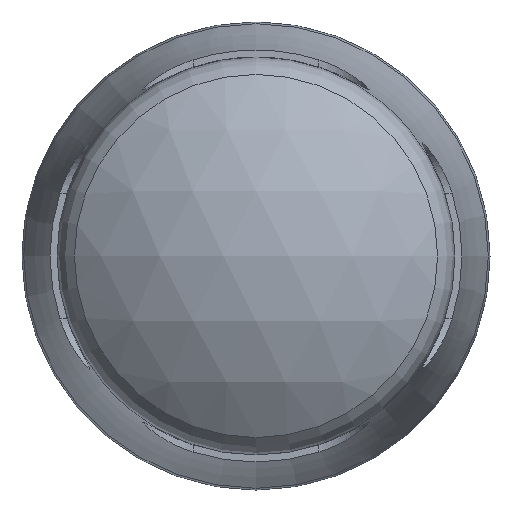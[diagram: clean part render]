
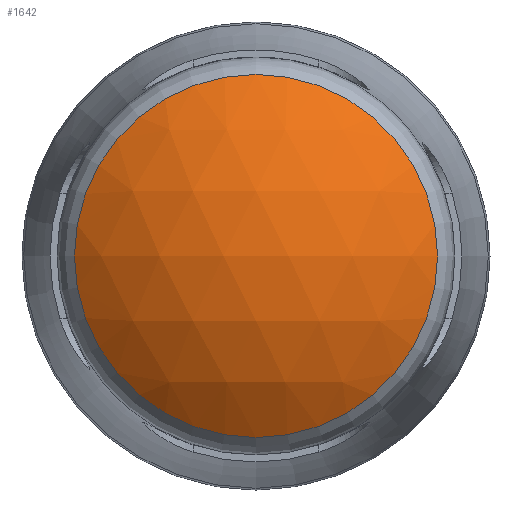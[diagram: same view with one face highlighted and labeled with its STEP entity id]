
A CAD part, left-side view. The second image highlights one B-rep face of the part: STEP entity #1642.
In plain terms, the highlighted spherical face has radius 63.5 mm.
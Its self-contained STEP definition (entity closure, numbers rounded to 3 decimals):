
#14=SPHERICAL_SURFACE('',#1819,63.5);
#202=FACE_OUTER_BOUND('',#298,.T.);
#298=EDGE_LOOP('',(#1188,#1189));
#597=CIRCLE('',#1816,39.956);
#598=CIRCLE('',#1817,39.956);
#713=VERTEX_POINT('',#2947);
#714=VERTEX_POINT('',#2949);
#893=EDGE_CURVE('',#713,#714,#597,.T.);
#894=EDGE_CURVE('',#714,#713,#598,.T.);
#1188=ORIENTED_EDGE('',*,*,#894,.F.);
#1189=ORIENTED_EDGE('',*,*,#893,.F.);
#1642=ADVANCED_FACE('',(#202),#14,.T.);
#1816=AXIS2_PLACEMENT_3D('',#2950,#2118,#2119);
#1817=AXIS2_PLACEMENT_3D('',#2951,#2120,#2121);
#1819=AXIS2_PLACEMENT_3D('',#2953,#2124,#2125);
#2118=DIRECTION('center_axis',(1.,0.,0.));
#2119=DIRECTION('ref_axis',(0.,-1.,0.));
#2120=DIRECTION('center_axis',(1.,0.,0.));
#2121=DIRECTION('ref_axis',(0.,-1.,0.));
#2124=DIRECTION('center_axis',(0.,0.,
1.));
#2125=DIRECTION('ref_axis',(-1.,-0.003,0.));
#2947=CARTESIAN_POINT('',(14.147,0.,39.956));
#2949=CARTESIAN_POINT('',(14.147,39.956,0.));
#2950=CARTESIAN_POINT('Origin',(14.147,0.,0.));
#2951=CARTESIAN_POINT('Origin',(14.147,0.,0.));
#2953=CARTESIAN_POINT('Origin',(63.5,0.,0.));
